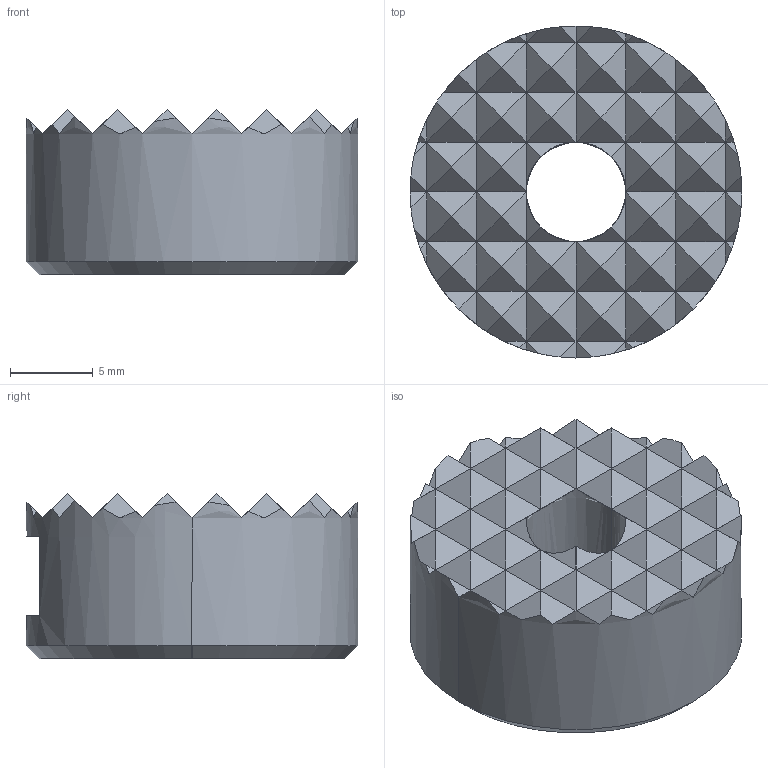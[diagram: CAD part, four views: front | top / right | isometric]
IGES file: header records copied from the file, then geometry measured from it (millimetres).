
Start section: SolidWorks IGES file using analytic representation for surfaces
Global section: file name: X:\11_SW2020-Inv2020\00_全2021-11新製品まで\h\HS-200\hs-200.IGS; native system: SolidWorks 2020; preprocessor: SolidWorks 2020; author: ImaoCorp; date: 211026.101648; units: millimetre
Bounding box: 20 x 20 x 10 mm (x, y, z)
Surface area: 1390.6 mm2 (no closed solid volume)
Topology: 0 solids, 0 shells, 180 faces, 758 edges, 758 vertices
Faces by surface type: bspline 172, revolution 8
